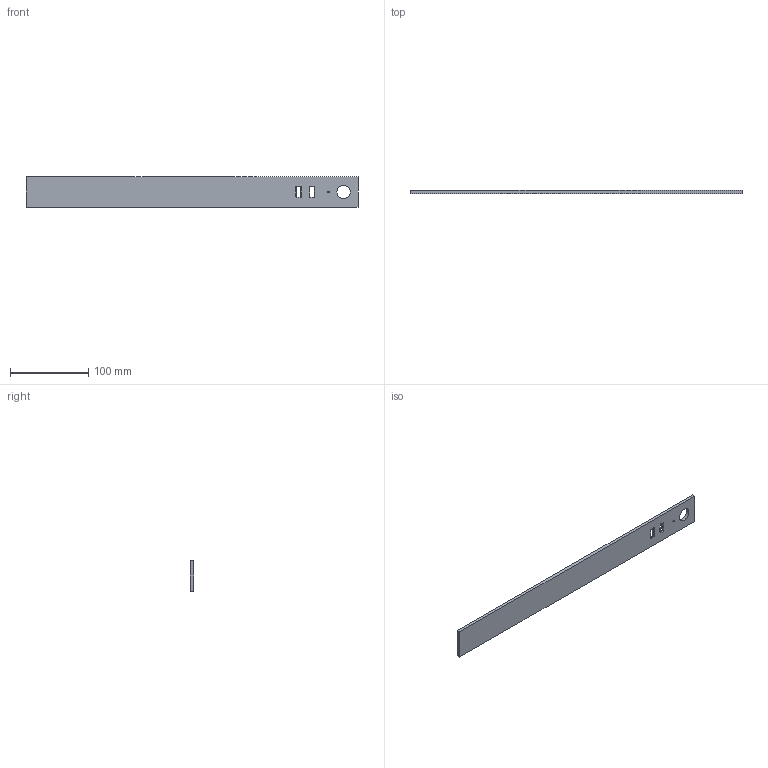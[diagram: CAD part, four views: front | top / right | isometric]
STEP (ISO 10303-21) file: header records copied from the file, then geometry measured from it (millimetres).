
FILE_DESCRIPTION (( 'STEP AP214' ), '1' );
FILE_NAME ('FP.4U.002_1 øò.STEP', '2023-05-17T06:31:56', ( '' ), ( '' ), 'SwSTEP 2.0', 'SolidWorks 2022', '' );
FILE_SCHEMA (( 'AUTOMOTIVE_DESIGN' ));
Length unit declared in the file: millimetre
Products named in the file (1): FP.4U.002_1 шт
Bounding box: 425 x 4 x 39.56 mm (x, y, z)
Volume: 65131.7 mm3; surface area: 37466.5 mm2
Topology: 1 solids, 1 shells, 52 faces, 100 edges, 66 vertices
Faces by surface type: plane 30, cylinder 16, bspline 6
Full cylindrical faces by diameter (mm): 2 x1, 2.2 x2, 2.5 x4, 4.37 x8, 17 x1
Entity records: 2246 total; most frequent: CARTESIAN_POINT 645, DIRECTION 194, ORIENTED_EDGE 164, EDGE_LOOP 94, EDGE_CURVE 82, AXIS2_PLACEMENT_3D 79, FACE_OUTER_BOUND 70, VERTEX_POINT 66
